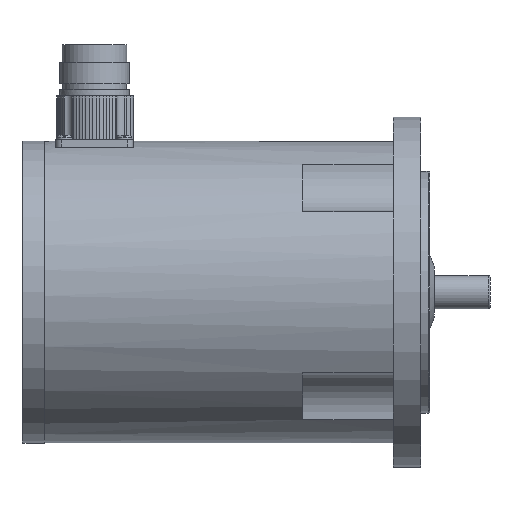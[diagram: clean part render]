
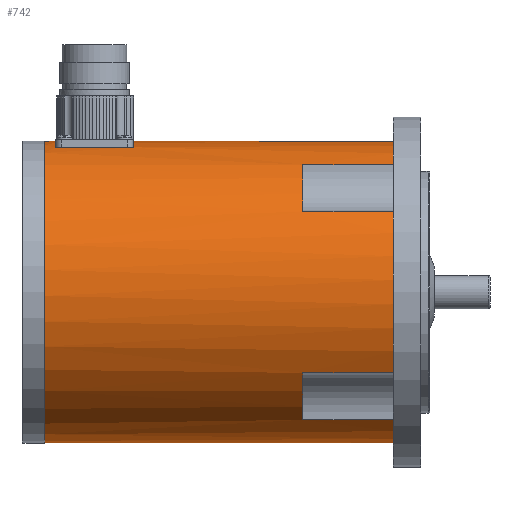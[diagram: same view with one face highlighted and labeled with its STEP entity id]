
A CAD part, left-side view. The second image highlights one B-rep face of the part: STEP entity #742.
In plain terms, the highlighted cylindrical face has radius 50 mm (diameter 100 mm), a full revolution.
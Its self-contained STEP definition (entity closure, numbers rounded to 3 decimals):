
#372=CYLINDRICAL_SURFACE('',#4102,50.);
#504=LINE('',#6088,#622);
#505=LINE('',#6092,#623);
#506=LINE('',#6093,#624);
#507=LINE('',#6095,#625);
#508=LINE('',#6099,#626);
#509=LINE('',#6100,#627);
#510=LINE('',#6104,#628);
#511=LINE('',#6105,#629);
#512=LINE('',#6109,#630);
#513=LINE('',#6110,#631);
#622=VECTOR('',#4732,1.);
#623=VECTOR('',#4735,1.);
#624=VECTOR('',#4736,1.);
#625=VECTOR('',#4737,1.);
#626=VECTOR('',#4740,1.);
#627=VECTOR('',#4741,1.);
#628=VECTOR('',#4744,1.);
#629=VECTOR('',#4745,1.);
#630=VECTOR('',#4748,1.);
#631=VECTOR('',#4749,1.);
#742=ADVANCED_FACE('',(#1274,#1275,#1276),#372,.T.);
#1274=FACE_BOUND('',#1565,.T.);
#1275=FACE_BOUND('',#1566,.T.);
#1276=FACE_BOUND('',#1567,.T.);
#1565=EDGE_LOOP('',(#2036,#2037,#2038,#2039));
#1566=EDGE_LOOP('',(#2040,#2041,#2042,#2043,#2044,#2045,#2046,#2047,#2048,
#2049,#2050,#2051,#2052,#2053,#2054,#2055));
#1567=EDGE_LOOP('',(#2056));
#2036=ORIENTED_EDGE('',*,*,#3306,.F.);
#2037=ORIENTED_EDGE('',*,*,#3307,.F.);
#2038=ORIENTED_EDGE('',*,*,#3308,.F.);
#2039=ORIENTED_EDGE('',*,*,#3309,.F.);
#2040=ORIENTED_EDGE('',*,*,#3310,.F.);
#2041=ORIENTED_EDGE('',*,*,#3304,.T.);
#2042=ORIENTED_EDGE('',*,*,#3311,.F.);
#2043=ORIENTED_EDGE('',*,*,#3312,.F.);
#2044=ORIENTED_EDGE('',*,*,#3313,.F.);
#2045=ORIENTED_EDGE('',*,*,#3302,.T.);
#2046=ORIENTED_EDGE('',*,*,#3314,.F.);
#2047=ORIENTED_EDGE('',*,*,#3315,.F.);
#2048=ORIENTED_EDGE('',*,*,#3316,.F.);
#2049=ORIENTED_EDGE('',*,*,#3300,.T.);
#2050=ORIENTED_EDGE('',*,*,#3317,.F.);
#2051=ORIENTED_EDGE('',*,*,#3318,.F.);
#2052=ORIENTED_EDGE('',*,*,#3319,.F.);
#2053=ORIENTED_EDGE('',*,*,#3298,.T.);
#2054=ORIENTED_EDGE('',*,*,#3320,.F.);
#2055=ORIENTED_EDGE('',*,*,#3321,.F.);
#2056=ORIENTED_EDGE('',*,*,#3296,.T.);
#2936=VERTEX_POINT('',#6064);
#2937=VERTEX_POINT('',#6067);
#2938=VERTEX_POINT('',#6068);
#2939=VERTEX_POINT('',#6070);
#2940=VERTEX_POINT('',#6072);
#2941=VERTEX_POINT('',#6074);
#2942=VERTEX_POINT('',#6076);
#2943=VERTEX_POINT('',#6078);
#2944=VERTEX_POINT('',#6080);
#2946=VERTEX_POINT('',#6086);
#2947=VERTEX_POINT('',#6087);
#2948=VERTEX_POINT('',#6089);
#2949=VERTEX_POINT('',#6091);
#2950=VERTEX_POINT('',#6094);
#2951=VERTEX_POINT('',#6096);
#2952=VERTEX_POINT('',#6098);
#2953=VERTEX_POINT('',#6101);
#2954=VERTEX_POINT('',#6103);
#2955=VERTEX_POINT('',#6106);
#2956=VERTEX_POINT('',#6108);
#2957=VERTEX_POINT('',#6111);
#3296=EDGE_CURVE('',#2936,#2936,#3751,.T.);
#3298=EDGE_CURVE('',#2939,#2938,#3753,.T.);
#3300=EDGE_CURVE('',#2941,#2940,#3755,.T.);
#3302=EDGE_CURVE('',#2943,#2942,#3757,.T.);
#3304=EDGE_CURVE('',#2937,#2944,#3759,.T.);
#3306=EDGE_CURVE('',#2946,#2947,#3761,.T.);
#3307=EDGE_CURVE('',#2948,#2946,#504,.T.);
#3308=EDGE_CURVE('',#2949,#2948,#3762,.T.);
#3309=EDGE_CURVE('',#2947,#2949,#505,.T.);
#3310=EDGE_CURVE('',#2937,#2950,#506,.T.);
#3311=EDGE_CURVE('',#2951,#2944,#507,.T.);
#3312=EDGE_CURVE('',#2952,#2951,#3763,.T.);
#3313=EDGE_CURVE('',#2943,#2952,#508,.T.);
#3314=EDGE_CURVE('',#2953,#2942,#509,.T.);
#3315=EDGE_CURVE('',#2954,#2953,#3764,.T.);
#3316=EDGE_CURVE('',#2941,#2954,#510,.T.);
#3317=EDGE_CURVE('',#2955,#2940,#511,.T.);
#3318=EDGE_CURVE('',#2956,#2955,#3765,.T.);
#3319=EDGE_CURVE('',#2939,#2956,#512,.T.);
#3320=EDGE_CURVE('',#2957,#2938,#513,.T.);
#3321=EDGE_CURVE('',#2950,#2957,#3766,.T.);
#3751=CIRCLE('',#4084,50.);
#3753=CIRCLE('',#4087,50.);
#3755=CIRCLE('',#4089,50.);
#3757=CIRCLE('',#4091,50.);
#3759=CIRCLE('',#4093,50.);
#3761=CIRCLE('',#4096,50.);
#3762=CIRCLE('',#4097,50.);
#3763=CIRCLE('',#4098,50.);
#3764=CIRCLE('',#4099,50.);
#3765=CIRCLE('',#4100,50.);
#3766=CIRCLE('',#4101,50.);
#4084=AXIS2_PLACEMENT_3D('',#6063,#4706,#4707);
#4087=AXIS2_PLACEMENT_3D('',#6069,#4712,#4713);
#4089=AXIS2_PLACEMENT_3D('',#6073,#4716,#4717);
#4091=AXIS2_PLACEMENT_3D('',#6077,#4720,#4721);
#4093=AXIS2_PLACEMENT_3D('',#6081,#4724,#4725);
#4096=AXIS2_PLACEMENT_3D('',#6085,#4730,#4731);
#4097=AXIS2_PLACEMENT_3D('',#6090,#4733,#4734);
#4098=AXIS2_PLACEMENT_3D('',#6097,#4738,#4739);
#4099=AXIS2_PLACEMENT_3D('',#6102,#4742,#4743);
#4100=AXIS2_PLACEMENT_3D('',#6107,#4746,#4747);
#4101=AXIS2_PLACEMENT_3D('',#6112,#4750,#4751);
#4102=AXIS2_PLACEMENT_3D('',#6113,#4752,#4753);
#4706=DIRECTION('',(0.,-1.,0.));
#4707=DIRECTION('',(0.,0.,-1.));
#4712=DIRECTION('',(0.,1.,0.));
#4713=DIRECTION('',(0.,0.,1.));
#4716=DIRECTION('',(0.,1.,0.));
#4717=DIRECTION('',(0.,0.,1.));
#4720=DIRECTION('',(0.,1.,0.));
#4721=DIRECTION('',(0.,0.,1.));
#4724=DIRECTION('',(0.,1.,0.));
#4725=DIRECTION('',(0.,0.,1.));
#4730=DIRECTION('',(0.,1.,0.));
#4731=DIRECTION('',(0.,0.,-1.));
#4732=DIRECTION('',(0.,-1.,0.));
#4733=DIRECTION('',(0.,-1.,0.));
#4734=DIRECTION('',(0.,0.,1.));
#4735=DIRECTION('',(0.,1.,0.));
#4736=DIRECTION('',(0.,1.,0.));
#4737=DIRECTION('',(0.,-1.,0.));
#4738=DIRECTION('',(0.,-1.,0.));
#4739=DIRECTION('',(0.,0.,1.));
#4740=DIRECTION('',(0.,1.,0.));
#4741=DIRECTION('',(0.,-1.,0.));
#4742=DIRECTION('',(0.,-1.,0.));
#4743=DIRECTION('',(0.,0.,1.));
#4744=DIRECTION('',(0.,1.,0.));
#4745=DIRECTION('',(0.,-1.,0.));
#4746=DIRECTION('',(0.,-1.,0.));
#4747=DIRECTION('',(0.,0.,1.));
#4748=DIRECTION('',(0.,1.,0.));
#4749=DIRECTION('',(0.,-1.,0.));
#4750=DIRECTION('',(0.,-1.,0.));
#4751=DIRECTION('',(0.,0.,1.));
#4752=DIRECTION('',(0.,1.,0.));
#4753=DIRECTION('',(0.,0.,1.));
#6063=CARTESIAN_POINT('',(0.,115.5,0.));
#6064=CARTESIAN_POINT('',(0.,115.5,-50.));
#6067=CARTESIAN_POINT('',(-26.729,0.,42.256));
#6068=CARTESIAN_POINT('',(-42.256,0.,26.729));
#6069=CARTESIAN_POINT('',(0.,0.,0.));
#6070=CARTESIAN_POINT('',(-42.256,0.,-26.729));
#6072=CARTESIAN_POINT('',(-26.729,0.,-42.256));
#6073=CARTESIAN_POINT('',(0.,0.,0.));
#6074=CARTESIAN_POINT('',(26.729,0.,-42.256));
#6076=CARTESIAN_POINT('',(42.256,0.,-26.729));
#6077=CARTESIAN_POINT('',(0.,0.,0.));
#6078=CARTESIAN_POINT('',(42.256,0.,26.729));
#6080=CARTESIAN_POINT('',(26.729,0.,42.256));
#6081=CARTESIAN_POINT('',(0.,0.,0.));
#6085=CARTESIAN_POINT('',(0.,86.,0.));
#6086=CARTESIAN_POINT('',(-14.,86.,48.));
#6087=CARTESIAN_POINT('',(14.,86.,48.));
#6088=CARTESIAN_POINT('',(-14.,0.,48.));
#6089=CARTESIAN_POINT('',(-14.,112.,48.));
#6090=CARTESIAN_POINT('',(0.,112.,0.));
#6091=CARTESIAN_POINT('',(14.,112.,48.));
#6092=CARTESIAN_POINT('',(14.,0.,48.));
#6093=CARTESIAN_POINT('',(-26.729,15.,42.256));
#6094=CARTESIAN_POINT('',(-26.729,30.,42.256));
#6095=CARTESIAN_POINT('',(26.729,15.,42.256));
#6096=CARTESIAN_POINT('',(26.729,30.,42.256));
#6097=CARTESIAN_POINT('',(0.,30.,0.));
#6098=CARTESIAN_POINT('',(42.256,30.,26.729));
#6099=CARTESIAN_POINT('',(42.256,15.,26.729));
#6100=CARTESIAN_POINT('',(42.256,15.,-26.729));
#6101=CARTESIAN_POINT('',(42.256,30.,-26.729));
#6102=CARTESIAN_POINT('',(0.,30.,0.));
#6103=CARTESIAN_POINT('',(26.729,30.,-42.256));
#6104=CARTESIAN_POINT('',(26.729,15.,-42.256));
#6105=CARTESIAN_POINT('',(-26.729,15.,-42.256));
#6106=CARTESIAN_POINT('',(-26.729,30.,-42.256));
#6107=CARTESIAN_POINT('',(0.,30.,0.));
#6108=CARTESIAN_POINT('',(-42.256,30.,-26.729));
#6109=CARTESIAN_POINT('',(-42.256,15.,-26.729));
#6110=CARTESIAN_POINT('',(-42.256,15.,26.729));
#6111=CARTESIAN_POINT('',(-42.256,30.,26.729));
#6112=CARTESIAN_POINT('',(0.,30.,0.));
#6113=CARTESIAN_POINT('',(0.,0.,0.));
